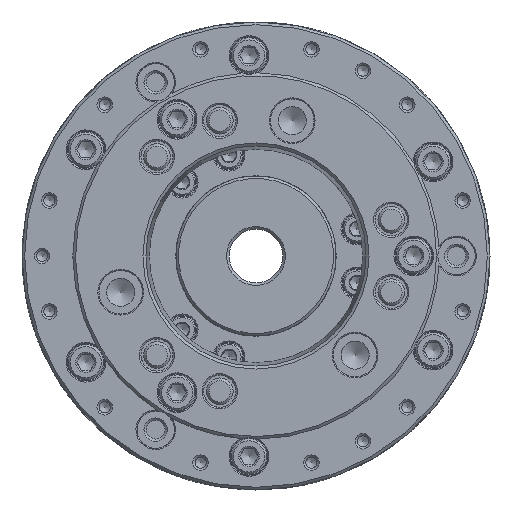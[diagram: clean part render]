
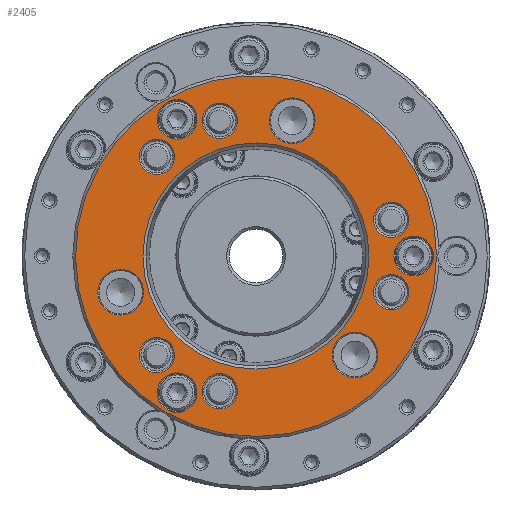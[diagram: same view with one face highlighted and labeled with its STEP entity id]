
A CAD part, left-side view. The second image highlights one B-rep face of the part: STEP entity #2405.
In plain terms, the highlighted planar face has unit normal (-1, 0, 0).
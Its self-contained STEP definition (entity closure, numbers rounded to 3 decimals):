
#370 = AXIS2_PLACEMENT_3D ( 'NONE', #65686, #40214, #98692 ) ;
#943 = ORIENTED_EDGE ( 'NONE', *, *, #4785, .T. ) ;
#1935 = EDGE_LOOP ( 'NONE', ( #75512 ) ) ;
#2405 = ADVANCED_FACE ( 'NONE', ( #99258, #25086, #82451, #65203, #83499, #98206, #65730, #16978, #9346, #57068, #90055, #15933, #50015, #7741 ), #106840, .T. ) ;
#2866 = ORIENTED_EDGE ( 'NONE', *, *, #70721, .T. ) ;
#3342 = DIRECTION ( 'NONE',  ( 0., 0., -1. ) ) ;
#3540 = DIRECTION ( 'NONE',  ( -1., 0., 0. ) ) ;
#3611 = AXIS2_PLACEMENT_3D ( 'NONE', #62647, #3540, #4604 ) ;
#4053 = DIRECTION ( 'NONE',  ( 0., 0., 1. ) ) ;
#4514 = VERTEX_POINT ( 'NONE', #28425 ) ;
#4604 = DIRECTION ( 'NONE',  ( 0., 0., 1. ) ) ;
#4785 = EDGE_CURVE ( 'NONE', #7983, #7983, #56726, .T. ) ;
#5706 = CARTESIAN_POINT ( 'NONE',  ( -95., 13.56, -50.605 ) ) ;
#5988 = DIRECTION ( 'NONE',  ( 1., 0., 0. ) ) ;
#7741 = FACE_BOUND ( 'NONE', #39578, .T. ) ;
#7983 = VERTEX_POINT ( 'NONE', #90818 ) ;
#8493 = AXIS2_PLACEMENT_3D ( 'NONE', #33573, #65595, #49353 ) ;
#8630 = CARTESIAN_POINT ( 'NONE',  ( -95., -50.605, -13.56 ) ) ;
#9324 = EDGE_CURVE ( 'NONE', #47330, #47330, #53773, .T. ) ;
#9346 = FACE_BOUND ( 'NONE', #55828, .T. ) ;
#12610 = AXIS2_PLACEMENT_3D ( 'NONE', #54300, #46186, #3342 ) ;
#14685 = CARTESIAN_POINT ( 'NONE',  ( -95., 29.5, -43.695 ) ) ;
#15933 = FACE_BOUND ( 'NONE', #66906, .T. ) ;
#15977 = AXIS2_PLACEMENT_3D ( 'NONE', #83214, #75085, #58373 ) ;
#16018 = EDGE_CURVE ( 'NONE', #32108, #32108, #46071, .T. ) ;
#16373 = DIRECTION ( 'NONE',  ( -1., 0., 0. ) ) ;
#16424 = CARTESIAN_POINT ( 'NONE',  ( -95., -59., 7.4 ) ) ;
#16978 = FACE_BOUND ( 'NONE', #52603, .T. ) ;
#17613 = ORIENTED_EDGE ( 'NONE', *, *, #90359, .T. ) ;
#17782 = VERTEX_POINT ( 'NONE', #24812 ) ;
#18918 = CIRCLE ( 'NONE', #8493, 7.4 ) ;
#19559 = EDGE_CURVE ( 'NONE', #48398, #48398, #75106, .T. ) ;
#21507 = CARTESIAN_POINT ( 'NONE',  ( -95., -42.279, 0. ) ) ;
#23766 = VERTEX_POINT ( 'NONE', #40504 ) ;
#23936 = EDGE_CURVE ( 'NONE', #92695, #92695, #103544, .T. ) ;
#24577 = CARTESIAN_POINT ( 'NONE',  ( -95., -67.5, 0. ) ) ;
#24776 = ORIENTED_EDGE ( 'NONE', *, *, #100712, .T. ) ;
#24812 = CARTESIAN_POINT ( 'NONE',  ( -95., 13.56, -57.205 ) ) ;
#25086 = FACE_BOUND ( 'NONE', #51659, .T. ) ;
#25340 = VERTEX_POINT ( 'NONE', #57846 ) ;
#26801 = CARTESIAN_POINT ( 'NONE',  ( -95., 37.045, 30.445 ) ) ;
#26856 = ORIENTED_EDGE ( 'NONE', *, *, #57204, .T. ) ;
#28111 = CIRCLE ( 'NONE', #15977, 6.6 ) ;
#28425 = CARTESIAN_POINT ( 'NONE',  ( -95., 13.56, 44.005 ) ) ;
#28503 = AXIS2_PLACEMENT_3D ( 'NONE', #8630, #91470, #59031 ) ;
#28554 = VERTEX_POINT ( 'NONE', #21507 ) ;
#32108 = VERTEX_POINT ( 'NONE', #16424 ) ;
#32963 = AXIS2_PLACEMENT_3D ( 'NONE', #90514, #16373, #72109 ) ;
#33573 = CARTESIAN_POINT ( 'NONE',  ( -95., 29.5, 51.095 ) ) ;
#34676 = ORIENTED_EDGE ( 'NONE', *, *, #90409, .T. ) ;
#34943 = AXIS2_PLACEMENT_3D ( 'NONE', #100582, #91361, #42111 ) ;
#35479 = CIRCLE ( 'NONE', #37434, 6.6 ) ;
#37434 = AXIS2_PLACEMENT_3D ( 'NONE', #81079, #40488, #91340 ) ;
#39045 = DIRECTION ( 'NONE',  ( 0., -1., 0. ) ) ;
#39290 = DIRECTION ( 'NONE',  ( 0., 0., -1. ) ) ;
#39434 = AXIS2_PLACEMENT_3D ( 'NONE', #66569, #97452, #89317 ) ;
#39578 = EDGE_LOOP ( 'NONE', ( #102365 ) ) ;
#40108 = DIRECTION ( 'NONE',  ( 1., 0., 0. ) ) ;
#40214 = DIRECTION ( 'NONE',  ( -1., 0., 0. ) ) ;
#40488 = DIRECTION ( 'NONE',  ( 1., 0., 0. ) ) ;
#40504 = CARTESIAN_POINT ( 'NONE',  ( -95., 37.045, -43.645 ) ) ;
#42044 = EDGE_CURVE ( 'NONE', #73091, #73091, #62455, .T. ) ;
#42111 = DIRECTION ( 'NONE',  ( 0., 0., -1. ) ) ;
#43671 = ORIENTED_EDGE ( 'NONE', *, *, #9324, .T. ) ;
#44195 = ORIENTED_EDGE ( 'NONE', *, *, #71181, .F. ) ;
#44292 = AXIS2_PLACEMENT_3D ( 'NONE', #102667, #63154, #4053 ) ;
#46071 = CIRCLE ( 'NONE', #44292, 7.4 ) ;
#46186 = DIRECTION ( 'NONE',  ( 1., 0., 0. ) ) ;
#46537 = CARTESIAN_POINT ( 'NONE',  ( -95., -67.5, 0. ) ) ;
#46584 = CIRCLE ( 'NONE', #82836, 6.6 ) ;
#47330 = VERTEX_POINT ( 'NONE', #85380 ) ;
#48398 = VERTEX_POINT ( 'NONE', #90029 ) ;
#49353 = DIRECTION ( 'NONE',  ( 0., 0., 1. ) ) ;
#49927 = AXIS2_PLACEMENT_3D ( 'NONE', #66631, #40108, #73099 ) ;
#50015 = FACE_OUTER_BOUND ( 'NONE', #102456, .T. ) ;
#51292 = EDGE_LOOP ( 'NONE', ( #80745 ) ) ;
#51659 = EDGE_LOOP ( 'NONE', ( #43671 ) ) ;
#52603 = EDGE_LOOP ( 'NONE', ( #24776 ) ) ;
#53741 = CARTESIAN_POINT ( 'NONE',  ( -95., -37.045, -37.045 ) ) ;
#53773 = CIRCLE ( 'NONE', #91740, 8.54 ) ;
#54300 = CARTESIAN_POINT ( 'NONE',  ( -95., 13.56, 50.605 ) ) ;
#55828 = EDGE_LOOP ( 'NONE', ( #943 ) ) ;
#56726 = CIRCLE ( 'NONE', #39434, 8.54 ) ;
#57068 = FACE_BOUND ( 'NONE', #68215, .T. ) ;
#57204 = EDGE_CURVE ( 'NONE', #69803, #69803, #92078, .T. ) ;
#57608 = DIRECTION ( 'NONE',  ( -1., 0., 0. ) ) ;
#57846 = CARTESIAN_POINT ( 'NONE',  ( -95., 29.5, 58.495 ) ) ;
#58373 = DIRECTION ( 'NONE',  ( 0., 0., -1. ) ) ;
#59031 = DIRECTION ( 'NONE',  ( 0., 0., -1. ) ) ;
#62455 = CIRCLE ( 'NONE', #3611, 7.4 ) ;
#62647 = CARTESIAN_POINT ( 'NONE',  ( -95., 29.5, -51.095 ) ) ;
#63154 = DIRECTION ( 'NONE',  ( -1., 0., 0. ) ) ;
#65203 = FACE_BOUND ( 'NONE', #97479, .T. ) ;
#65575 = EDGE_CURVE ( 'NONE', #23766, #23766, #35479, .T. ) ;
#65595 = DIRECTION ( 'NONE',  ( -1., 0., 0. ) ) ;
#65686 = CARTESIAN_POINT ( 'NONE',  ( -95., 0., 0. ) ) ;
#65730 = FACE_BOUND ( 'NONE', #89676, .T. ) ;
#66569 = CARTESIAN_POINT ( 'NONE',  ( -95., 50.605, -13.56 ) ) ;
#66631 = CARTESIAN_POINT ( 'NONE',  ( -95., -13.56, 50.605 ) ) ;
#66906 = EDGE_LOOP ( 'NONE', ( #82695 ) ) ;
#67423 = VERTEX_POINT ( 'NONE', #106961 ) ;
#68215 = EDGE_LOOP ( 'NONE', ( #85845 ) ) ;
#69803 = VERTEX_POINT ( 'NONE', #46537 ) ;
#70721 = EDGE_CURVE ( 'NONE', #17782, #17782, #46584, .T. ) ;
#70751 = EDGE_LOOP ( 'NONE', ( #77437 ) ) ;
#71181 = EDGE_CURVE ( 'NONE', #25340, #25340, #18918, .T. ) ;
#72109 = DIRECTION ( 'NONE',  ( 0., -1., 0. ) ) ;
#73091 = VERTEX_POINT ( 'NONE', #14685 ) ;
#73099 = DIRECTION ( 'NONE',  ( 0., -1., 0. ) ) ;
#73528 = EDGE_LOOP ( 'NONE', ( #17613 ) ) ;
#75085 = DIRECTION ( 'NONE',  ( 1., 0., 0. ) ) ;
#75106 = CIRCLE ( 'NONE', #28503, 6.6 ) ;
#75512 = ORIENTED_EDGE ( 'NONE', *, *, #23936, .T. ) ;
#76037 = VERTEX_POINT ( 'NONE', #26801 ) ;
#77437 = ORIENTED_EDGE ( 'NONE', *, *, #65575, .T. ) ;
#79626 = CIRCLE ( 'NONE', #32963, 42.279 ) ;
#80343 = EDGE_CURVE ( 'NONE', #28554, #28554, #79626, .T. ) ;
#80745 = ORIENTED_EDGE ( 'NONE', *, *, #42044, .F. ) ;
#81079 = CARTESIAN_POINT ( 'NONE',  ( -95., 37.045, -37.045 ) ) ;
#82451 = FACE_BOUND ( 'NONE', #51292, .T. ) ;
#82695 = ORIENTED_EDGE ( 'NONE', *, *, #19559, .T. ) ;
#82836 = AXIS2_PLACEMENT_3D ( 'NONE', #5706, #88039, #39290 ) ;
#83214 = CARTESIAN_POINT ( 'NONE',  ( -95., 37.045, 37.045 ) ) ;
#83499 = FACE_BOUND ( 'NONE', #84266, .T. ) ;
#84266 = EDGE_LOOP ( 'NONE', ( #2866 ) ) ;
#85115 = CARTESIAN_POINT ( 'NONE',  ( -95., -22.1, 50.605 ) ) ;
#85380 = CARTESIAN_POINT ( 'NONE',  ( -95., -45.585, -37.045 ) ) ;
#85845 = ORIENTED_EDGE ( 'NONE', *, *, #16018, .F. ) ;
#86968 = CIRCLE ( 'NONE', #12610, 6.6 ) ;
#88039 = DIRECTION ( 'NONE',  ( 1., 0., 0. ) ) ;
#89317 = DIRECTION ( 'NONE',  ( 0., -1., 0. ) ) ;
#89676 = EDGE_LOOP ( 'NONE', ( #34676 ) ) ;
#90029 = CARTESIAN_POINT ( 'NONE',  ( -95., -50.605, -20.16 ) ) ;
#90055 = FACE_BOUND ( 'NONE', #73528, .T. ) ;
#90359 = EDGE_CURVE ( 'NONE', #67423, #67423, #98978, .T. ) ;
#90409 = EDGE_CURVE ( 'NONE', #76037, #76037, #28111, .T. ) ;
#90514 = CARTESIAN_POINT ( 'NONE',  ( -95., 0., 0. ) ) ;
#90583 = DIRECTION ( 'NONE',  ( 0., -1., 0. ) ) ;
#90818 = CARTESIAN_POINT ( 'NONE',  ( -95., 42.065, -13.56 ) ) ;
#91340 = DIRECTION ( 'NONE',  ( 0., 0., -1. ) ) ;
#91361 = DIRECTION ( 'NONE',  ( 1., 0., 0. ) ) ;
#91470 = DIRECTION ( 'NONE',  ( 1., 0., 0. ) ) ;
#91506 = AXIS2_PLACEMENT_3D ( 'NONE', #24577, #57608, #90583 ) ;
#91740 = AXIS2_PLACEMENT_3D ( 'NONE', #53741, #5988, #39045 ) ;
#92078 = CIRCLE ( 'NONE', #370, 67.5 ) ;
#92695 = VERTEX_POINT ( 'NONE', #85115 ) ;
#97452 = DIRECTION ( 'NONE',  ( 1., 0., 0. ) ) ;
#97479 = EDGE_LOOP ( 'NONE', ( #44195 ) ) ;
#98206 = FACE_BOUND ( 'NONE', #70751, .T. ) ;
#98692 = DIRECTION ( 'NONE',  ( 0., -1., 0. ) ) ;
#98978 = CIRCLE ( 'NONE', #34943, 6.6 ) ;
#99258 = FACE_BOUND ( 'NONE', #1935, .T. ) ;
#100582 = CARTESIAN_POINT ( 'NONE',  ( -95., -50.605, 13.56 ) ) ;
#100712 = EDGE_CURVE ( 'NONE', #4514, #4514, #86968, .T. ) ;
#102365 = ORIENTED_EDGE ( 'NONE', *, *, #80343, .F. ) ;
#102456 = EDGE_LOOP ( 'NONE', ( #26856 ) ) ;
#102667 = CARTESIAN_POINT ( 'NONE',  ( -95., -59., 0. ) ) ;
#103544 = CIRCLE ( 'NONE', #49927, 8.54 ) ;
#106840 = PLANE ( 'NONE',  #91506 ) ;
#106961 = CARTESIAN_POINT ( 'NONE',  ( -95., -50.605, 6.96 ) ) ;
